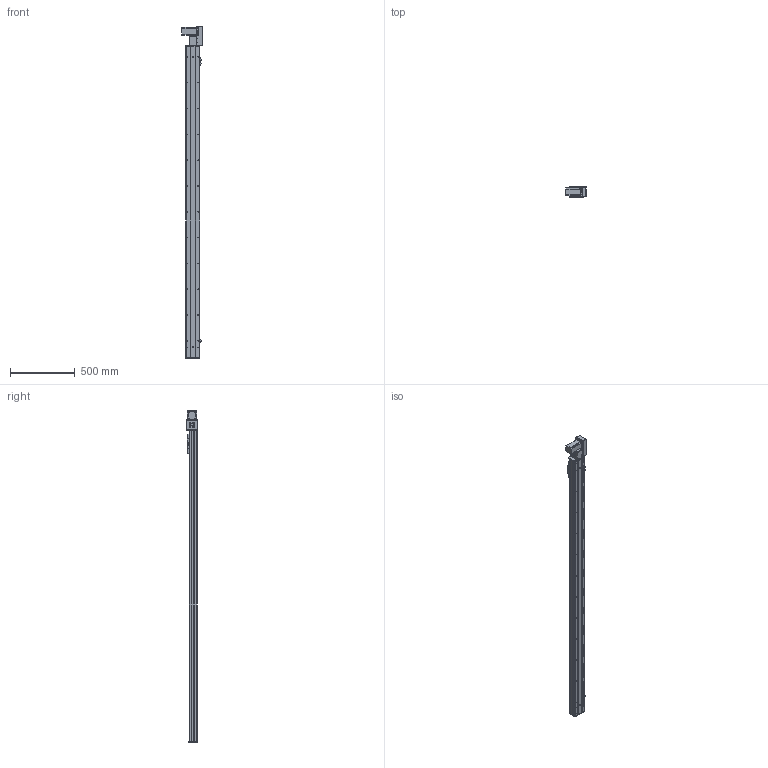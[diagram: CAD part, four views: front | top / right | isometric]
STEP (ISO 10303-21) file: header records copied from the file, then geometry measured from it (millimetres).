
FILE_DESCRIPTION (( 'STEP AP203' ), '1' );
FILE_NAME ('Y10CB-D90-S2150-BR-P400W.STEP', '2020-02-16T02:15:22', ( '微软用户' ), ( '微软中国' ), 'SwSTEP 2.0', 'SolidWorks 2017', '' );
FILE_SCHEMA (( 'CONFIG_CONTROL_DESIGN' ));
Length unit declared in the file: millimetre
Products named in the file (18): Y100-135俋离換覜ん--; Y10B-々湍喘謫眊楊擘啣--; Y10B--々湍喘謫眊--666; Y俋欶BR----; Y10B-耜蚾蟀諉啣----; Y10CB-D90-S2150-BR-P400W; 10CB-詩湍-; 0B-萇儂楊擘啣; Y10CB- 掛极耜裔啣-毀---; san松下电机400不带刹车----; Y10C---詩湍揤啣; 0B-源倛裔啣; 10CB9-掛极; 0B-埴倛裔啣; 10CB-耜裔; 0CB-雄赽釱---; Y135C-陔俋离換覜結え-; 0Cb-俋欶---
Assembly tree (21 placements, depth 2):
  Y10CB-D90-S2150-BR-P400W
    0CB-雄赽釱---
    0Cb-俋欶---
    Y10B-々湍喘謫眊楊擘啣--
    Y10B-耜蚾蟀諉啣----
    0B-萇儂楊擘啣
    san松下电机400不带刹车----
    0B-源倛裔啣
    0B-埴倛裔啣
    Y俋欶BR----
    10CB-詩湍-
    Y10CB- 掛极耜裔啣-毀---  x2
    Y10C---詩湍揤啣  x2
    10CB9-掛极
    10CB-耜裔
    Y135C-陔俋离換覜結え-
    Y100-135俋离換覜ん--  x3
    Y10B--々湍喘謫眊--666
Bounding box: 157.5 x 80.5 x 2572.5 mm (x, y, z)
Volume: 5143346.3 mm3; surface area: 2425171.6 mm2
Topology: 21 solids, 21 shells, 1062 faces, 2883 edges, 1874 vertices
Faces by surface type: cylinder 547, plane 491, cone 24
Entity records: 33904 total; most frequent: CARTESIAN_POINT 6357, DIRECTION 5402, ORIENTED_EDGE 5236, EDGE_CURVE 2618, AXIS2_PLACEMENT_3D 1929, VERTEX_POINT 1700, VECTOR 1544, LINE 1544
